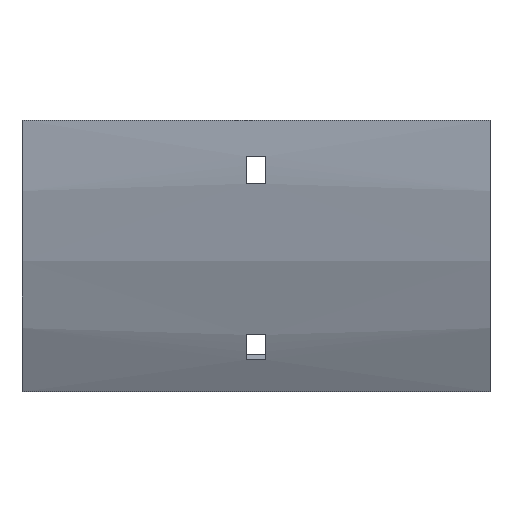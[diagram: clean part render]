
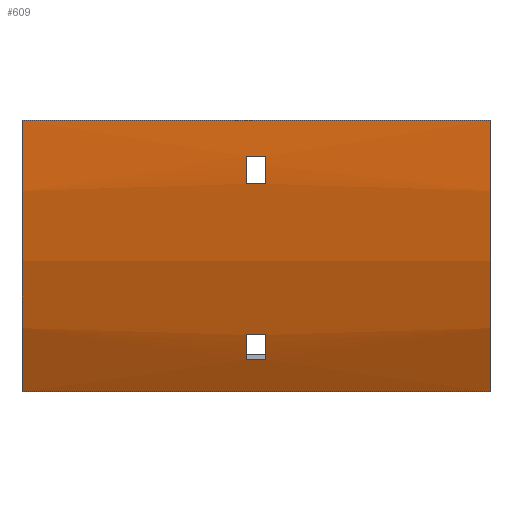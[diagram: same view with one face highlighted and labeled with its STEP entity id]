
A CAD part, front view. The second image highlights one B-rep face of the part: STEP entity #609.
In plain terms, the highlighted cylindrical face has radius 179 mm (diameter 358 mm), a partial arc.
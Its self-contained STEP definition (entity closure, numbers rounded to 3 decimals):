
#2 = ORIENTED_EDGE ( 'NONE', *, *, #403, .T. ) ;
#4 = CARTESIAN_POINT ( 'NONE',  ( 77., -77.764, -21. ) ) ;
#9 = ORIENTED_EDGE ( 'NONE', *, *, #977, .T. ) ;
#18 = EDGE_LOOP ( 'NONE', ( #1574, #369, #654, #1101 ) ) ;
#20 = VERTEX_POINT ( 'NONE', #1258 ) ;
#25 = EDGE_CURVE ( 'NONE', #1259, #1675, #1394, .T. ) ;
#54 = DIRECTION ( 'NONE',  ( -1., 0., 0. ) ) ;
#67 = CIRCLE ( 'NONE', #285, 179. ) ;
#82 = CARTESIAN_POINT ( 'NONE',  ( 77., 100., 0. ) ) ;
#89 = DIRECTION ( 'NONE',  ( 0., 0., -1. ) ) ;
#106 = ORIENTED_EDGE ( 'NONE', *, *, #917, .F. ) ;
#116 = CARTESIAN_POINT ( 'NONE',  ( 77., -55.019, -89.5 ) ) ;
#186 = DIRECTION ( 'NONE',  ( -1., 0., 0. ) ) ;
#193 = LINE ( 'NONE', #1256, #1460 ) ;
#205 = CARTESIAN_POINT ( 'NONE',  ( -77., 100., 0. ) ) ;
#222 = CARTESIAN_POINT ( 'NONE',  ( 3.25, 100., 0. ) ) ;
#234 = DIRECTION ( 'NONE',  ( -1., 0., 0. ) ) ;
#247 = ORIENTED_EDGE ( 'NONE', *, *, #1120, .F. ) ;
#251 = CARTESIAN_POINT ( 'NONE',  ( 3.25, 100., 0. ) ) ;
#257 = VERTEX_POINT ( 'NONE', #714 ) ;
#285 = AXIS2_PLACEMENT_3D ( 'NONE', #695, #1307, #293 ) ;
#293 = DIRECTION ( 'NONE',  ( 0., 0., 1. ) ) ;
#311 = AXIS2_PLACEMENT_3D ( 'NONE', #556, #667, #1060 ) ;
#315 = CYLINDRICAL_SURFACE ( 'NONE', #1143, 179. ) ;
#357 = VECTOR ( 'NONE', #639, 1000. ) ;
#364 = VERTEX_POINT ( 'NONE', #546 ) ;
#369 = ORIENTED_EDGE ( 'NONE', *, *, #1072, .F. ) ;
#378 = EDGE_CURVE ( 'NONE', #1675, #1295, #1578, .T. ) ;
#403 = EDGE_CURVE ( 'NONE', #364, #1259, #1418, .T. ) ;
#416 = DIRECTION ( 'NONE',  ( 1., 0., 0. ) ) ;
#441 = FACE_BOUND ( 'NONE', #1018, .T. ) ;
#442 = CARTESIAN_POINT ( 'NONE',  ( 3.25, -78.597, -12. ) ) ;
#451 = CARTESIAN_POINT ( 'NONE',  ( -3.25, -64.448, -70.695 ) ) ;
#486 = EDGE_CURVE ( 'NONE', #1026, #257, #193, .T. ) ;
#510 = DIRECTION ( 'NONE',  ( 0., 0., 1. ) ) ;
#546 = CARTESIAN_POINT ( 'NONE',  ( -3.25, -78.597, -12. ) ) ;
#556 = CARTESIAN_POINT ( 'NONE',  ( -3.25, 100., 0. ) ) ;
#577 = CARTESIAN_POINT ( 'NONE',  ( -77., -79., 0. ) ) ;
#597 = DIRECTION ( 'NONE',  ( 1., 0., 0. ) ) ;
#606 = DIRECTION ( 'NONE',  ( 1., 0., 0. ) ) ;
#609 = ADVANCED_FACE ( 'NONE', ( #1213, #441, #1479 ), #315, .T. ) ;
#639 = DIRECTION ( 'NONE',  ( -1., 0., 0. ) ) ;
#654 = ORIENTED_EDGE ( 'NONE', *, *, #1405, .F. ) ;
#663 = EDGE_LOOP ( 'NONE', ( #9, #247, #106, #748 ) ) ;
#667 = DIRECTION ( 'NONE',  ( 1., 0., 0. ) ) ;
#684 = CIRCLE ( 'NONE', #311, 179. ) ;
#688 = AXIS2_PLACEMENT_3D ( 'NONE', #222, #606, #1293 ) ;
#695 = CARTESIAN_POINT ( 'NONE',  ( -3.25, 100., 0. ) ) ;
#702 = DIRECTION ( 'NONE',  ( 0., 0., 1. ) ) ;
#714 = CARTESIAN_POINT ( 'NONE',  ( 3.25, -60.67, -78.906 ) ) ;
#726 = DIRECTION ( 'NONE',  ( 0., 0., -1. ) ) ;
#748 = ORIENTED_EDGE ( 'NONE', *, *, #825, .T. ) ;
#775 = EDGE_CURVE ( 'NONE', #1295, #364, #67, .T. ) ;
#784 = DIRECTION ( 'NONE',  ( -1., 0., 0. ) ) ;
#807 = VERTEX_POINT ( 'NONE', #1052 ) ;
#825 = EDGE_CURVE ( 'NONE', #807, #1000, #960, .T. ) ;
#831 = CARTESIAN_POINT ( 'NONE',  ( 77., 100., 0. ) ) ;
#848 = DIRECTION ( 'NONE',  ( 1., 0., 0. ) ) ;
#881 = VERTEX_POINT ( 'NONE', #451 ) ;
#885 = AXIS2_PLACEMENT_3D ( 'NONE', #251, #234, #510 ) ;
#894 = DIRECTION ( 'NONE',  ( -1., 0., 0. ) ) ;
#895 = CARTESIAN_POINT ( 'NONE',  ( 77., -64.448, -70.695 ) ) ;
#917 = EDGE_CURVE ( 'NONE', #807, #20, #1564, .T. ) ;
#936 = VERTEX_POINT ( 'NONE', #980 ) ;
#960 = LINE ( 'NONE', #1582, #1596 ) ;
#977 = EDGE_CURVE ( 'NONE', #1000, #1463, #1093, .T. ) ;
#980 = CARTESIAN_POINT ( 'NONE',  ( 3.25, -64.448, -70.695 ) ) ;
#1000 = VERTEX_POINT ( 'NONE', #577 ) ;
#1012 = CARTESIAN_POINT ( 'NONE',  ( -77., -55.019, -89.5 ) ) ;
#1018 = EDGE_LOOP ( 'NONE', ( #1145, #1621, #2, #1363 ) ) ;
#1026 = VERTEX_POINT ( 'NONE', #1400 ) ;
#1052 = CARTESIAN_POINT ( 'NONE',  ( 77., -79., 0. ) ) ;
#1060 = DIRECTION ( 'NONE',  ( 0., 0., -1. ) ) ;
#1065 = AXIS2_PLACEMENT_3D ( 'NONE', #205, #1254, #726 ) ;
#1072 = EDGE_CURVE ( 'NONE', #936, #881, #1542, .T. ) ;
#1093 = CIRCLE ( 'NONE', #1065, 179. ) ;
#1101 = ORIENTED_EDGE ( 'NONE', *, *, #486, .F. ) ;
#1114 = CARTESIAN_POINT ( 'NONE',  ( -3.25, -77.764, -21. ) ) ;
#1120 = EDGE_CURVE ( 'NONE', #20, #1463, #1271, .T. ) ;
#1143 = AXIS2_PLACEMENT_3D ( 'NONE', #831, #186, #702 ) ;
#1145 = ORIENTED_EDGE ( 'NONE', *, *, #378, .T. ) ;
#1152 = EDGE_CURVE ( 'NONE', #881, #1026, #684, .T. ) ;
#1173 = VECTOR ( 'NONE', #894, 1000. ) ;
#1193 = CARTESIAN_POINT ( 'NONE',  ( 77., -78.597, -12. ) ) ;
#1213 = FACE_OUTER_BOUND ( 'NONE', #663, .T. ) ;
#1253 = AXIS2_PLACEMENT_3D ( 'NONE', #82, #848, #89 ) ;
#1254 = DIRECTION ( 'NONE',  ( 1., 0., 0. ) ) ;
#1256 = CARTESIAN_POINT ( 'NONE',  ( 77., -60.67, -78.906 ) ) ;
#1258 = CARTESIAN_POINT ( 'NONE',  ( 77., -55.019, -89.5 ) ) ;
#1259 = VERTEX_POINT ( 'NONE', #442 ) ;
#1271 = LINE ( 'NONE', #116, #357 ) ;
#1293 = DIRECTION ( 'NONE',  ( 0., 0., -1. ) ) ;
#1295 = VERTEX_POINT ( 'NONE', #1114 ) ;
#1299 = CIRCLE ( 'NONE', #885, 179. ) ;
#1307 = DIRECTION ( 'NONE',  ( -1., 0., 0. ) ) ;
#1363 = ORIENTED_EDGE ( 'NONE', *, *, #25, .T. ) ;
#1387 = VECTOR ( 'NONE', #784, 1000. ) ;
#1394 = CIRCLE ( 'NONE', #688, 179. ) ;
#1400 = CARTESIAN_POINT ( 'NONE',  ( -3.25, -60.67, -78.906 ) ) ;
#1405 = EDGE_CURVE ( 'NONE', #257, #936, #1299, .T. ) ;
#1418 = LINE ( 'NONE', #1193, #1506 ) ;
#1460 = VECTOR ( 'NONE', #597, 1000. ) ;
#1463 = VERTEX_POINT ( 'NONE', #1012 ) ;
#1479 = FACE_BOUND ( 'NONE', #18, .T. ) ;
#1506 = VECTOR ( 'NONE', #416, 1000. ) ;
#1542 = LINE ( 'NONE', #895, #1387 ) ;
#1564 = CIRCLE ( 'NONE', #1253, 179. ) ;
#1574 = ORIENTED_EDGE ( 'NONE', *, *, #1152, .F. ) ;
#1578 = LINE ( 'NONE', #4, #1173 ) ;
#1582 = CARTESIAN_POINT ( 'NONE',  ( 77., -79., 0. ) ) ;
#1596 = VECTOR ( 'NONE', #54, 1000. ) ;
#1621 = ORIENTED_EDGE ( 'NONE', *, *, #775, .T. ) ;
#1625 = CARTESIAN_POINT ( 'NONE',  ( 3.25, -77.764, -21. ) ) ;
#1675 = VERTEX_POINT ( 'NONE', #1625 ) ;
